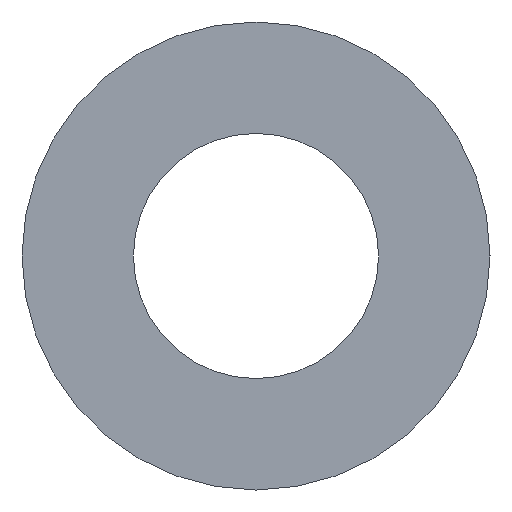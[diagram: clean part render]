
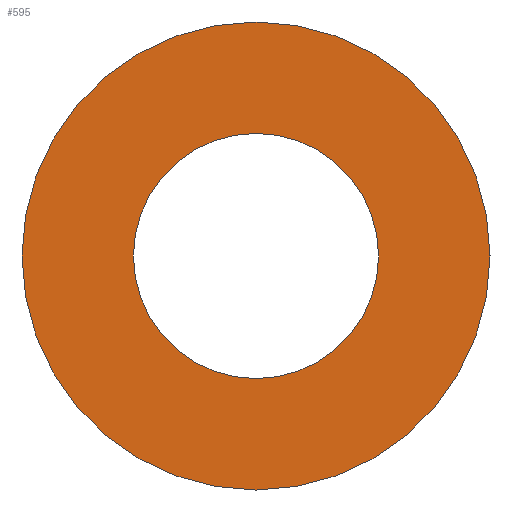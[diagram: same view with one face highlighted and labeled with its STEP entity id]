
A CAD part, left-side view. The second image highlights one B-rep face of the part: STEP entity #595.
In plain terms, the highlighted planar face has unit normal (-1, 0, 0).
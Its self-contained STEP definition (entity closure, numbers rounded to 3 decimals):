
#13 = AXIS2_PLACEMENT_3D ( 'NONE', #129, #506, #26 ) ;
#26 = DIRECTION ( 'NONE',  ( 0., 1., 0. ) ) ;
#40 = CIRCLE ( 'NONE', #605, 1.65 ) ;
#56 = ORIENTED_EDGE ( 'NONE', *, *, #155, .T. ) ;
#77 = CARTESIAN_POINT ( 'NONE',  ( -8.2, 0., 1.65 ) ) ;
#93 = CIRCLE ( 'NONE', #293, 3.15 ) ;
#112 = VERTEX_POINT ( 'NONE', #77 ) ;
#129 = CARTESIAN_POINT ( 'NONE',  ( -8.2, 0., 0. ) ) ;
#136 = DIRECTION ( 'NONE',  ( 1., 0., 0. ) ) ;
#152 = DIRECTION ( 'NONE',  ( 0., 0., -1. ) ) ;
#155 = EDGE_CURVE ( 'NONE', #567, #112, #40, .T. ) ;
#165 = EDGE_CURVE ( 'NONE', #632, #271, #534, .T. ) ;
#183 = CIRCLE ( 'NONE', #13, 1.65 ) ;
#233 = ORIENTED_EDGE ( 'NONE', *, *, #547, .F. ) ;
#239 = AXIS2_PLACEMENT_3D ( 'NONE', #398, #345, #557 ) ;
#240 = FACE_OUTER_BOUND ( 'NONE', #269, .T. ) ;
#247 = CARTESIAN_POINT ( 'NONE',  ( -8.2, 0., -1.65 ) ) ;
#253 = DIRECTION ( 'NONE',  ( 1., 0., 0. ) ) ;
#255 = CARTESIAN_POINT ( 'NONE',  ( -8.2, 0., 3.15 ) ) ;
#269 = EDGE_LOOP ( 'NONE', ( #233, #304 ) ) ;
#271 = VERTEX_POINT ( 'NONE', #437 ) ;
#293 = AXIS2_PLACEMENT_3D ( 'NONE', #342, #136, #442 ) ;
#304 = ORIENTED_EDGE ( 'NONE', *, *, #165, .F. ) ;
#305 = AXIS2_PLACEMENT_3D ( 'NONE', #456, #562, #152 ) ;
#342 = CARTESIAN_POINT ( 'NONE',  ( -8.2, 0., 0. ) ) ;
#345 = DIRECTION ( 'NONE',  ( -1., 0., 0. ) ) ;
#354 = DIRECTION ( 'NONE',  ( 0., 1., 0. ) ) ;
#371 = ORIENTED_EDGE ( 'NONE', *, *, #493, .T. ) ;
#398 = CARTESIAN_POINT ( 'NONE',  ( -8.2, 3.15, 0. ) ) ;
#413 = CARTESIAN_POINT ( 'NONE',  ( -8.2, 0., 0. ) ) ;
#437 = CARTESIAN_POINT ( 'NONE',  ( -8.2, 0., -3.15 ) ) ;
#442 = DIRECTION ( 'NONE',  ( 0., 0., -1. ) ) ;
#448 = PLANE ( 'NONE',  #239 ) ;
#455 = FACE_BOUND ( 'NONE', #600, .T. ) ;
#456 = CARTESIAN_POINT ( 'NONE',  ( -8.2, 0., 0. ) ) ;
#493 = EDGE_CURVE ( 'NONE', #112, #567, #183, .T. ) ;
#506 = DIRECTION ( 'NONE',  ( 1., 0., 0. ) ) ;
#534 = CIRCLE ( 'NONE', #305, 3.15 ) ;
#547 = EDGE_CURVE ( 'NONE', #271, #632, #93, .T. ) ;
#557 = DIRECTION ( 'NONE',  ( 0., 0., 1. ) ) ;
#562 = DIRECTION ( 'NONE',  ( 1., 0., 0. ) ) ;
#567 = VERTEX_POINT ( 'NONE', #247 ) ;
#595 = ADVANCED_FACE ( 'NONE', ( #240, #455 ), #448, .T. ) ;
#600 = EDGE_LOOP ( 'NONE', ( #56, #371 ) ) ;
#605 = AXIS2_PLACEMENT_3D ( 'NONE', #413, #253, #354 ) ;
#632 = VERTEX_POINT ( 'NONE', #255 ) ;
